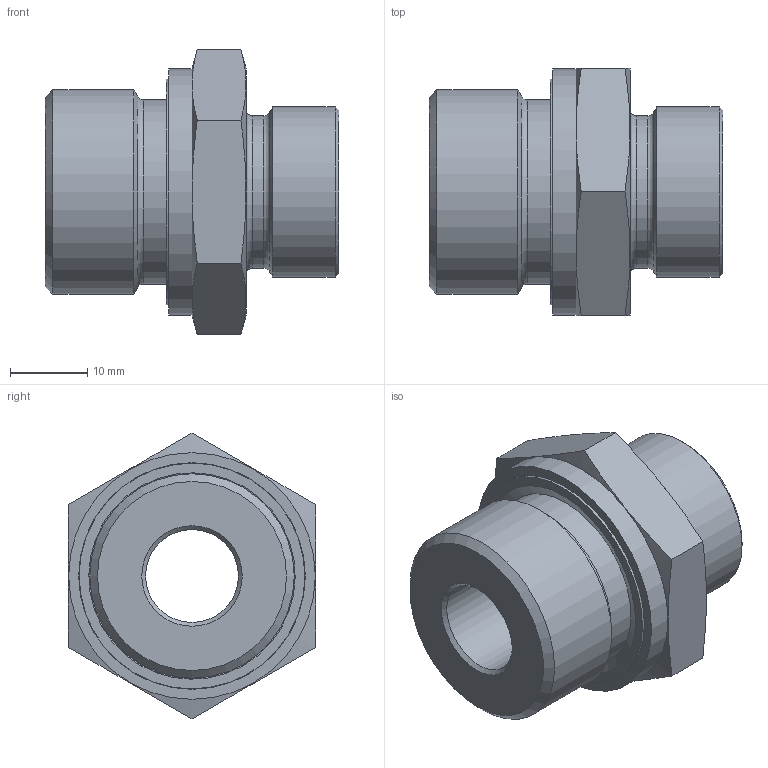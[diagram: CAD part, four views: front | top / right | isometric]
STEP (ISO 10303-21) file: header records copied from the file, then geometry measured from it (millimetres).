
FILE_DESCRIPTION( ( 'Unknown' ), '1' );
FILE_NAME( 'C:/Users/p.nanko/Desktop/3D SR/XGE15LED06.stp', 'Unknown', ( 'Peter Nanko' ), ( 'Armaturen Arndt' ), 'PSStep 14.0', 'Solid Edge ST4', ' ' );
FILE_SCHEMA( ( 'AUTOMOTIVE_DESIGN { 1 0 10303 214 1 1 1 1 }' ) );
Length unit declared in the file: millimetre
Products named in the file (3): Assem1; ED06; XGE15LED063
Assembly tree (2 placements, depth 2):
  Assem1
    ED06
    XGE15LED063
Bounding box: 38 x 32 x 36.95 mm (x, y, z)
Volume: 16338.7 mm3; surface area: 7173.5 mm2
Topology: 2 solids, 2 shells, 36 faces, 72 edges, 44 vertices
Faces by surface type: plane 14, cylinder 10, cone 9, torus 3
Full cylindrical faces by diameter (mm): 12 x1, 15 x1, 19.7 x1, 22 x1, 23.8 x1, 23.9 x1, 26.441 x1, 29.2 x1, 29.3 x1, 31.9 x1
Entity records: 1218 total; most frequent: CARTESIAN_POINT 227, DIRECTION 142, ORIENTED_EDGE 94, AXIS2_PLACEMENT_3D 68, EDGE_LOOP 66, FACE_OUTER_BOUND 49, EDGE_CURVE 47, VERTEX_POINT 41
